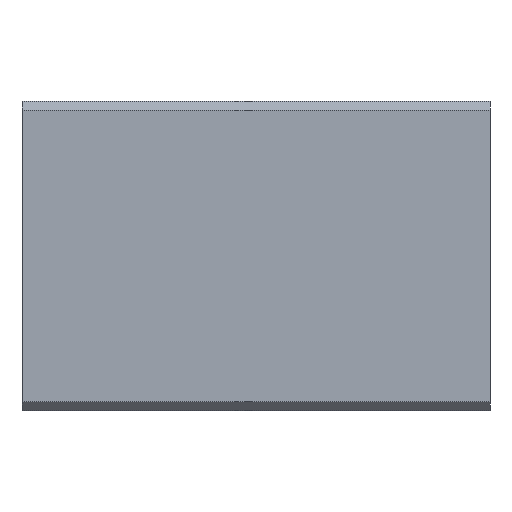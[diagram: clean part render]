
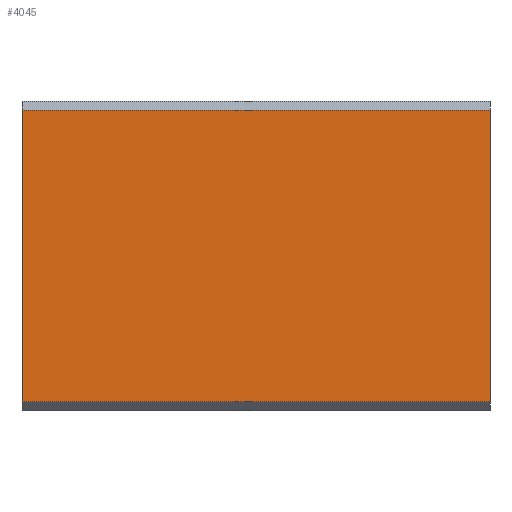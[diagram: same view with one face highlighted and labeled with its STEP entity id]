
A CAD part, front view. The second image highlights one B-rep face of the part: STEP entity #4045.
In plain terms, the highlighted planar face has unit normal (0, -1, 0).
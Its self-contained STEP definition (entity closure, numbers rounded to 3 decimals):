
#160 = EDGE_LOOP ( 'NONE', ( #9805, #9449, #6049, #6793 ) ) ;
#289 = VERTEX_POINT ( 'NONE', #7791 ) ;
#531 = AXIS2_PLACEMENT_3D ( 'NONE', #10238, #10233, #10204 ) ;
#708 = CARTESIAN_POINT ( 'NONE',  ( 0., -17.5, 17.5 ) ) ;
#941 = LINE ( 'NONE', #9764, #6843 ) ;
#1060 = LINE ( 'NONE', #9789, #9755 ) ;
#1082 = CARTESIAN_POINT ( 'NONE',  ( 53., -17.5, 16.5 ) ) ;
#1824 = EDGE_CURVE ( 'NONE', #2335, #4853, #4995, .T. ) ;
#1903 = EDGE_CURVE ( 'NONE', #6767, #2335, #1060, .T. ) ;
#2335 = VERTEX_POINT ( 'NONE', #9431 ) ;
#2458 = LINE ( 'NONE', #10878, #9848 ) ;
#2791 = DIRECTION ( 'NONE',  ( 0., 0., -1. ) ) ;
#3452 = DIRECTION ( 'NONE',  ( 0., 0., -1. ) ) ;
#4045 = ADVANCED_FACE ( 'NONE', ( #6304 ), #10533, .F. ) ;
#4591 = EDGE_CURVE ( 'NONE', #6767, #289, #2458, .T. ) ;
#4853 = VERTEX_POINT ( 'NONE', #5569 ) ;
#4995 = LINE ( 'NONE', #708, #6182 ) ;
#5569 = CARTESIAN_POINT ( 'NONE',  ( 0., -17.5, -16.5 ) ) ;
#6049 = ORIENTED_EDGE ( 'NONE', *, *, #4591, .F. ) ;
#6182 = VECTOR ( 'NONE', #2791, 1000. ) ;
#6304 = FACE_OUTER_BOUND ( 'NONE', #160, .T. ) ;
#6767 = VERTEX_POINT ( 'NONE', #1082 ) ;
#6793 = ORIENTED_EDGE ( 'NONE', *, *, #1903, .T. ) ;
#6843 = VECTOR ( 'NONE', #9695, 1000. ) ;
#7791 = CARTESIAN_POINT ( 'NONE',  ( 53., -17.5, -16.5 ) ) ;
#9431 = CARTESIAN_POINT ( 'NONE',  ( 0., -17.5, 16.5 ) ) ;
#9449 = ORIENTED_EDGE ( 'NONE', *, *, #9526, .T. ) ;
#9526 = EDGE_CURVE ( 'NONE', #4853, #289, #941, .T. ) ;
#9695 = DIRECTION ( 'NONE',  ( 1., 0., 0. ) ) ;
#9755 = VECTOR ( 'NONE', #9802, 1000. ) ;
#9764 = CARTESIAN_POINT ( 'NONE',  ( 53., -17.5, -16.5 ) ) ;
#9789 = CARTESIAN_POINT ( 'NONE',  ( 53., -17.5, 16.5 ) ) ;
#9802 = DIRECTION ( 'NONE',  ( -1., 0., 0. ) ) ;
#9805 = ORIENTED_EDGE ( 'NONE', *, *, #1824, .T. ) ;
#9848 = VECTOR ( 'NONE', #3452, 1000. ) ;
#10204 = DIRECTION ( 'NONE',  ( 0., 0., 1. ) ) ;
#10233 = DIRECTION ( 'NONE',  ( 0., 1., 0. ) ) ;
#10238 = CARTESIAN_POINT ( 'NONE',  ( 53., -17.5, 17.5 ) ) ;
#10533 = PLANE ( 'NONE',  #531 ) ;
#10878 = CARTESIAN_POINT ( 'NONE',  ( 53., -17.5, 17.5 ) ) ;
